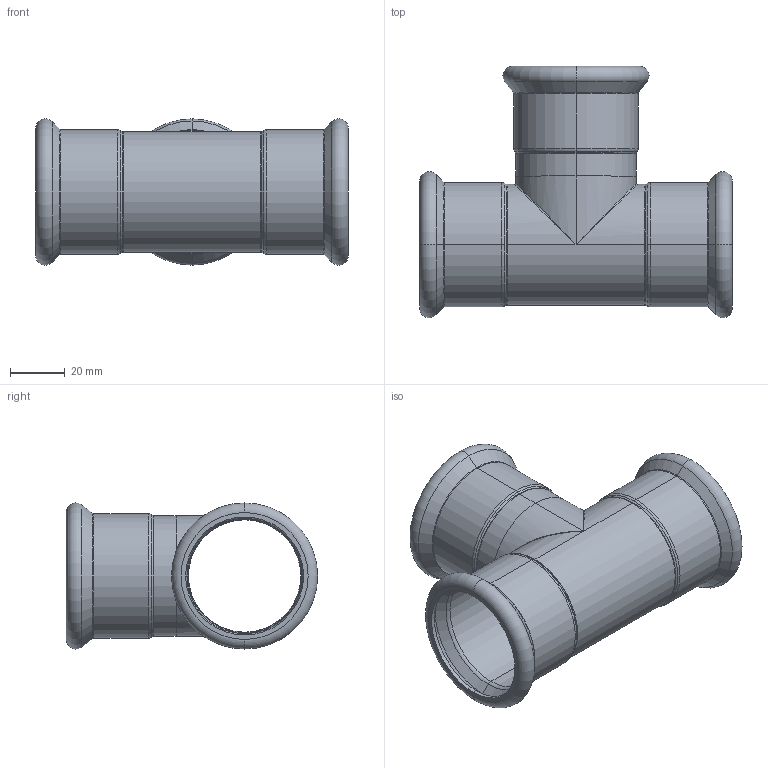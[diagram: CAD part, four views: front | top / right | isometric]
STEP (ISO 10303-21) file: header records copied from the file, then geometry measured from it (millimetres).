
FILE_DESCRIPTION (( 'STEP AP203' ), '1' );
FILE_NAME ('GDA5186.STEP', '2019-01-14T01:52:39', ( '' ), ( '' ), 'SwSTEP 2.0', 'SolidWorks 2015', '' );
FILE_SCHEMA (( 'CONFIG_CONTROL_DESIGN' ));
Length unit declared in the file: millimetre
Products named in the file (3): T(R)-¢ñ-42¡Á42''; GDA5186; T-ｉ-01-42
Assembly tree (2 placements, depth 2):
  GDA5186
    T(R)-¢ñ-42¡Á42''
    T-ｉ-01-42
Bounding box: 114 x 91.64 x 53.3 mm (x, y, z)
Volume: 34301.5 mm3; surface area: 46744.8 mm2
Topology: 2 solids, 2 shells, 115 faces, 235 edges, 120 vertices
Faces by surface type: torus 48, cylinder 32, cone 24, plane 8, bspline 3
Entity records: 3551 total; most frequent: CARTESIAN_POINT 793, DIRECTION 620, ORIENTED_EDGE 458, AXIS2_PLACEMENT_3D 281, EDGE_CURVE 229, CIRCLE 164, EDGE_LOOP 123, VERTEX_POINT 120
